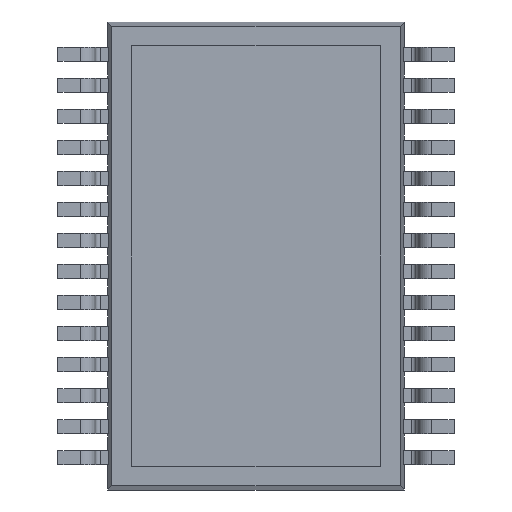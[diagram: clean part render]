
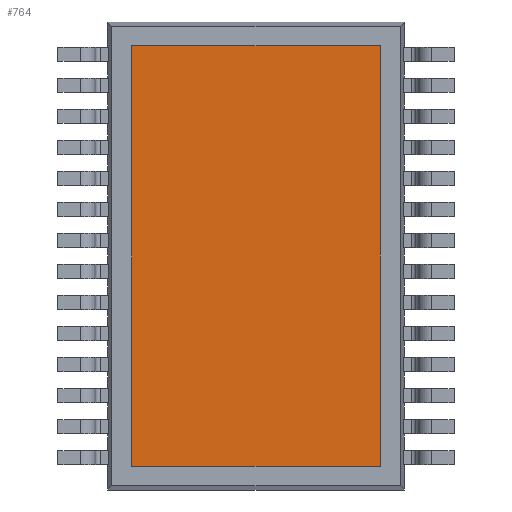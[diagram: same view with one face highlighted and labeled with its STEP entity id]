
A CAD part, front view. The second image highlights one B-rep face of the part: STEP entity #764.
In plain terms, the highlighted planar face has unit normal (0, -1, 0).
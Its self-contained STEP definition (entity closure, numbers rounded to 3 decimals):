
#764 = ADVANCED_FACE ( 'NONE', ( #5208 ), #17268, .F. ) ;
#1235 = EDGE_CURVE ( 'NONE', #4924, #4922, #10624, .T. ) ;
#1238 = EDGE_CURVE ( 'NONE', #4922, #4917, #10629, .T. ) ;
#1240 = EDGE_CURVE ( 'NONE', #4917, #4915, #10631, .T. ) ;
#1241 = EDGE_CURVE ( 'NONE', #4915, #4924, #10637, .T. ) ;
#2337 = AXIS2_PLACEMENT_3D ( 'NONE', #17247, #17246, #17245 ) ;
#4009 = ORIENTED_EDGE ( 'NONE', *, *, #1235, .T. ) ;
#4010 = ORIENTED_EDGE ( 'NONE', *, *, #1238, .T. ) ;
#4011 = ORIENTED_EDGE ( 'NONE', *, *, #1240, .T. ) ;
#4012 = ORIENTED_EDGE ( 'NONE', *, *, #1241, .T. ) ;
#4339 = EDGE_LOOP ( 'NONE', ( #4009, #4010, #4011, #4012 ) ) ;
#4915 = VERTEX_POINT ( 'NONE', #15982 ) ;
#4917 = VERTEX_POINT ( 'NONE', #15984 ) ;
#4922 = VERTEX_POINT ( 'NONE', #15989 ) ;
#4924 = VERTEX_POINT ( 'NONE', #15991 ) ;
#5208 = FACE_OUTER_BOUND ( 'NONE', #4339, .T. ) ;
#10624 = LINE ( 'NONE', #10866, #10628 ) ;
#10628 = VECTOR ( 'NONE', #10873, 1000. ) ;
#10629 = LINE ( 'NONE', #10874, #10634 ) ;
#10631 = LINE ( 'NONE', #10876, #10638 ) ;
#10634 = VECTOR ( 'NONE', #10879, 1000. ) ;
#10637 = LINE ( 'NONE', #10884, #10640 ) ;
#10638 = VECTOR ( 'NONE', #10883, 1000. ) ;
#10640 = VECTOR ( 'NONE', #10885, 1000. ) ;
#10866 = CARTESIAN_POINT ( 'NONE',  ( 2.6, 0., 4.4 ) ) ;
#10873 = DIRECTION ( 'NONE',  ( 0., 0., 1. ) ) ;
#10874 = CARTESIAN_POINT ( 'NONE',  ( -2.6, 0., 4.4 ) ) ;
#10876 = CARTESIAN_POINT ( 'NONE',  ( -2.6, 0., 4.4 ) ) ;
#10879 = DIRECTION ( 'NONE',  ( -1., 0., 0. ) ) ;
#10883 = DIRECTION ( 'NONE',  ( 0., 0., -1. ) ) ;
#10884 = CARTESIAN_POINT ( 'NONE',  ( -2.6, 0., -4.4 ) ) ;
#10885 = DIRECTION ( 'NONE',  ( 1., 0., 0. ) ) ;
#15982 = CARTESIAN_POINT ( 'NONE',  ( -2.6, 0., -4.4 ) ) ;
#15984 = CARTESIAN_POINT ( 'NONE',  ( -2.6, 0., 4.4 ) ) ;
#15989 = CARTESIAN_POINT ( 'NONE',  ( 2.6, 0., 4.4 ) ) ;
#15991 = CARTESIAN_POINT ( 'NONE',  ( 2.6, 0., -4.4 ) ) ;
#17245 = DIRECTION ( 'NONE',  ( 0., 0., 1. ) ) ;
#17246 = DIRECTION ( 'NONE',  ( 0., 1., 0. ) ) ;
#17247 = CARTESIAN_POINT ( 'NONE',  ( 0., 0., 0. ) ) ;
#17268 = PLANE ( 'NONE',  #2337 ) ;
